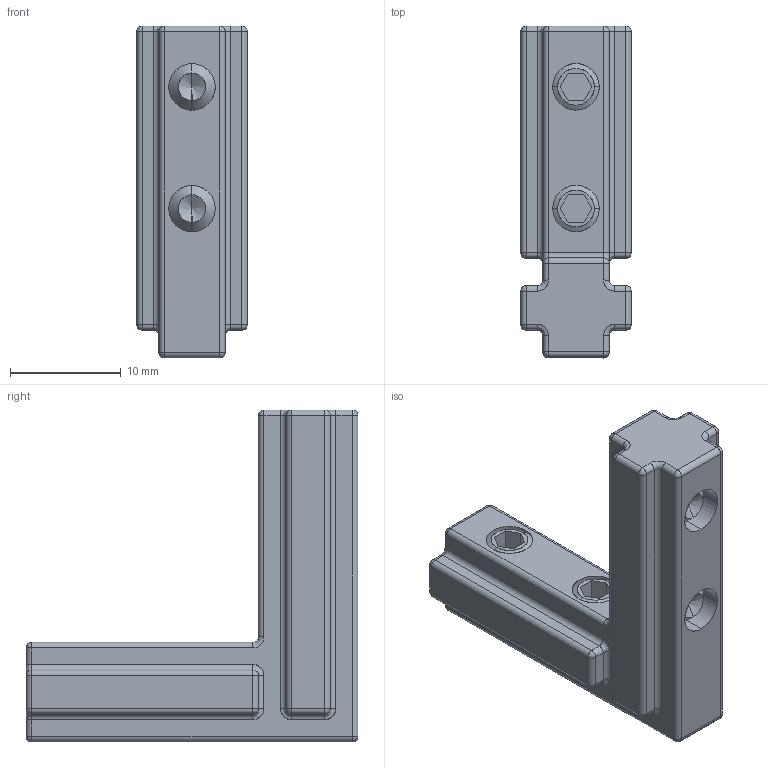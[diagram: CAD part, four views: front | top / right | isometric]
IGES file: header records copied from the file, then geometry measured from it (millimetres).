
Start section: SolidWorks IGES file using analytic representation for surfaces
Global section: file name: C:\Users\admin\Desktop\IGES\J3RJ.igs; native system: SolidWorks 2014; preprocessor: SolidWorks 2014; author: admin_pc; date: 170524.165941; units: millimetre
Bounding box: 10 x 30 x 30 mm (x, y, z)
Surface area: 2988 mm2 (no closed solid volume)
Topology: 0 solids, 0 shells, 206 faces, 1404 edges, 1370 vertices
Faces by surface type: revolution 132, bspline 74
